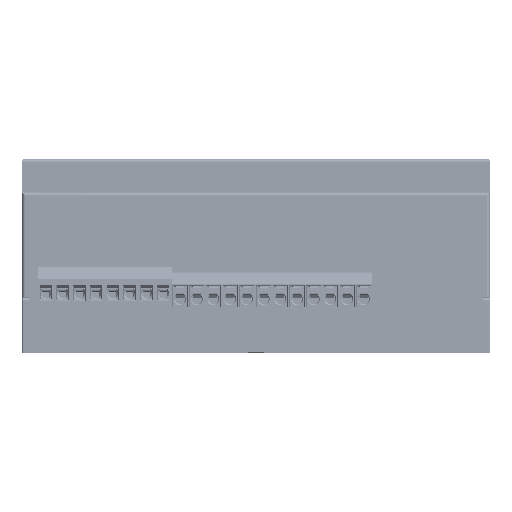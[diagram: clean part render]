
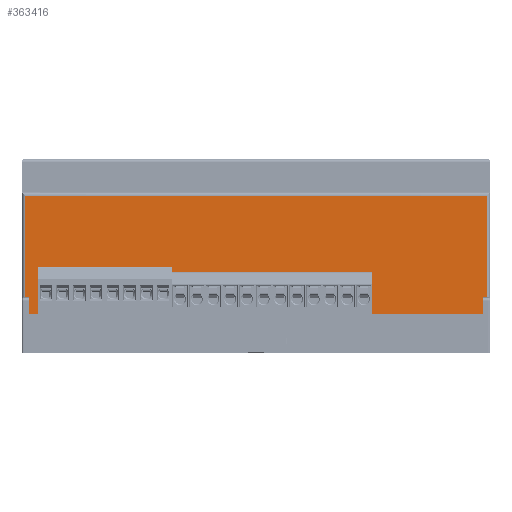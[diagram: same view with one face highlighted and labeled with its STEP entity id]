
A CAD part, top view. The second image highlights one B-rep face of the part: STEP entity #363416.
In plain terms, the highlighted planar face has unit normal (0, 0, 1).
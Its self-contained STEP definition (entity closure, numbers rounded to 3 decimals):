
#7122 = EDGE_CURVE ( 'NONE', #124457, #214389, #364484, .T. ) ;
#11371 = DIRECTION ( 'NONE',  ( -1., 0., 0. ) ) ;
#11579 = LINE ( 'NONE', #367376, #285143 ) ;
#12403 = VERTEX_POINT ( 'NONE', #381553 ) ;
#14831 = CARTESIAN_POINT ( 'NONE',  ( 138.5, -5., 0. ) ) ;
#26384 = VECTOR ( 'NONE', #456057, 1000. ) ;
#35715 = VERTEX_POINT ( 'NONE', #360260 ) ;
#36619 = EDGE_LOOP ( 'NONE', ( #102941, #256335, #307984, #424205, #102605, #330470, #200357, #390276, #161956, #371878, #297698, #402749 ) ) ;
#49387 = EDGE_CURVE ( 'NONE', #183861, #127064, #169331, .T. ) ;
#56931 = EDGE_CURVE ( 'NONE', #401893, #175825, #11579, .T. ) ;
#67278 = EDGE_CURVE ( 'NONE', #407028, #401893, #290034, .T. ) ;
#69397 = EDGE_CURVE ( 'NONE', #12403, #127064, #181453, .T. ) ;
#79814 = VECTOR ( 'NONE', #318010, 1000. ) ;
#83165 = VECTOR ( 'NONE', #419432, 1000. ) ;
#89965 = DIRECTION ( 'NONE',  ( 0.707, -0.707, 0. ) ) ;
#102540 = EDGE_CURVE ( 'NONE', #183861, #35715, #388511, .T. ) ;
#102605 = ORIENTED_EDGE ( 'NONE', *, *, #69397, .F. ) ;
#102941 = ORIENTED_EDGE ( 'NONE', *, *, #7122, .T. ) ;
#104400 = CARTESIAN_POINT ( 'NONE',  ( 1., 31.5, 0. ) ) ;
#110464 = CARTESIAN_POINT ( 'NONE',  ( 1.5, -6.5, 0. ) ) ;
#118302 = DIRECTION ( 'NONE',  ( 0., 0., -1. ) ) ;
#119139 = CARTESIAN_POINT ( 'NONE',  ( 138.5, -6.5, 0. ) ) ;
#124457 = VERTEX_POINT ( 'NONE', #247380 ) ;
#126428 = CARTESIAN_POINT ( 'NONE',  ( 1., -9., 0. ) ) ;
#127064 = VERTEX_POINT ( 'NONE', #215868 ) ;
#131931 = DIRECTION ( 'NONE',  ( 0., -1., 0. ) ) ;
#135921 = VERTEX_POINT ( 'NONE', #227067 ) ;
#147912 = CARTESIAN_POINT ( 'NONE',  ( 1.5, -9., 0. ) ) ;
#156608 = VECTOR ( 'NONE', #221295, 1000. ) ;
#158278 = DIRECTION ( 'NONE',  ( 0., -1., 0. ) ) ;
#161956 = ORIENTED_EDGE ( 'NONE', *, *, #67278, .T. ) ;
#167247 = CARTESIAN_POINT ( 'NONE',  ( 139., 30.5, 0. ) ) ;
#169331 = LINE ( 'NONE', #110464, #348027 ) ;
#169883 = CARTESIAN_POINT ( 'NONE',  ( 0., 30.5, 0. ) ) ;
#170603 = CARTESIAN_POINT ( 'NONE',  ( 1.5, -5., 0. ) ) ;
#175825 = VERTEX_POINT ( 'NONE', #220907 ) ;
#181453 = LINE ( 'NONE', #189260, #443740 ) ;
#183861 = VERTEX_POINT ( 'NONE', #442163 ) ;
#189260 = CARTESIAN_POINT ( 'NONE',  ( 1.5, -5., 0. ) ) ;
#192935 = LINE ( 'NONE', #409563, #276634 ) ;
#194661 = DIRECTION ( 'NONE',  ( -1., 0., 0. ) ) ;
#200357 = ORIENTED_EDGE ( 'NONE', *, *, #348414, .F. ) ;
#207239 = DIRECTION ( 'NONE',  ( 0., 1., 0. ) ) ;
#209914 = VECTOR ( 'NONE', #131931, 1000. ) ;
#214389 = VERTEX_POINT ( 'NONE', #126428 ) ;
#215868 = CARTESIAN_POINT ( 'NONE',  ( 3., -5., 0. ) ) ;
#216195 = LINE ( 'NONE', #170603, #26384 ) ;
#216725 = EDGE_CURVE ( 'NONE', #135921, #12403, #231177, .T. ) ;
#220907 = CARTESIAN_POINT ( 'NONE',  ( 139., -9., 0. ) ) ;
#221295 = DIRECTION ( 'NONE',  ( 1., 0., 0. ) ) ;
#227067 = CARTESIAN_POINT ( 'NONE',  ( 95., -5., 0. ) ) ;
#231177 = LINE ( 'NONE', #266303, #314825 ) ;
#245168 = EDGE_CURVE ( 'NONE', #303728, #124457, #367839, .T. ) ;
#247380 = CARTESIAN_POINT ( 'NONE',  ( 1., 30.5, 0. ) ) ;
#251560 = LINE ( 'NONE', #147912, #156608 ) ;
#256335 = ORIENTED_EDGE ( 'NONE', *, *, #359185, .T. ) ;
#266303 = CARTESIAN_POINT ( 'NONE',  ( 1.5, -5., 0. ) ) ;
#274585 = CARTESIAN_POINT ( 'NONE',  ( 138.5, -9., 0. ) ) ;
#276634 = VECTOR ( 'NONE', #89965, 1000. ) ;
#285143 = VECTOR ( 'NONE', #403176, 1000. ) ;
#290034 = LINE ( 'NONE', #14831, #396105 ) ;
#296162 = CARTESIAN_POINT ( 'NONE',  ( 0., 31.5, 0. ) ) ;
#297698 = ORIENTED_EDGE ( 'NONE', *, *, #380327, .T. ) ;
#303728 = VERTEX_POINT ( 'NONE', #167247 ) ;
#307984 = ORIENTED_EDGE ( 'NONE', *, *, #102540, .F. ) ;
#309741 = CARTESIAN_POINT ( 'NONE',  ( 1.5, -5., 0. ) ) ;
#314825 = VECTOR ( 'NONE', #194661, 1000. ) ;
#316453 = LINE ( 'NONE', #456676, #400179 ) ;
#318010 = DIRECTION ( 'NONE',  ( 0., -1., 0. ) ) ;
#330470 = ORIENTED_EDGE ( 'NONE', *, *, #216725, .F. ) ;
#330567 = EDGE_CURVE ( 'NONE', #342699, #407028, #192935, .T. ) ;
#331951 = PLANE ( 'NONE',  #462060 ) ;
#342699 = VERTEX_POINT ( 'NONE', #384586 ) ;
#348027 = VECTOR ( 'NONE', #358476, 1000. ) ;
#348414 = EDGE_CURVE ( 'NONE', #342699, #135921, #216195, .T. ) ;
#358476 = DIRECTION ( 'NONE',  ( 0.707, 0.707, 0. ) ) ;
#359185 = EDGE_CURVE ( 'NONE', #214389, #35715, #251560, .T. ) ;
#360260 = CARTESIAN_POINT ( 'NONE',  ( 1.5, -9., 0. ) ) ;
#363416 = ADVANCED_FACE ( 'NONE', ( #434776 ), #331951, .F. ) ;
#364484 = LINE ( 'NONE', #104400, #79814 ) ;
#367376 = CARTESIAN_POINT ( 'NONE',  ( 140., -9., 0. ) ) ;
#367839 = LINE ( 'NONE', #169883, #83165 ) ;
#367987 = DIRECTION ( 'NONE',  ( -1., 0., 0. ) ) ;
#371878 = ORIENTED_EDGE ( 'NONE', *, *, #56931, .T. ) ;
#380327 = EDGE_CURVE ( 'NONE', #175825, #303728, #316453, .T. ) ;
#381553 = CARTESIAN_POINT ( 'NONE',  ( 45., -5., 0. ) ) ;
#384586 = CARTESIAN_POINT ( 'NONE',  ( 137., -5., 0. ) ) ;
#388511 = LINE ( 'NONE', #309741, #209914 ) ;
#390276 = ORIENTED_EDGE ( 'NONE', *, *, #330567, .T. ) ;
#396105 = VECTOR ( 'NONE', #158278, 1000. ) ;
#400179 = VECTOR ( 'NONE', #207239, 1000. ) ;
#401893 = VERTEX_POINT ( 'NONE', #274585 ) ;
#402749 = ORIENTED_EDGE ( 'NONE', *, *, #245168, .T. ) ;
#403176 = DIRECTION ( 'NONE',  ( 1., 0., 0. ) ) ;
#407028 = VERTEX_POINT ( 'NONE', #119139 ) ;
#409563 = CARTESIAN_POINT ( 'NONE',  ( 137., -5., 0. ) ) ;
#419432 = DIRECTION ( 'NONE',  ( -1., 0., 0. ) ) ;
#424205 = ORIENTED_EDGE ( 'NONE', *, *, #49387, .T. ) ;
#434776 = FACE_OUTER_BOUND ( 'NONE', #36619, .T. ) ;
#442163 = CARTESIAN_POINT ( 'NONE',  ( 1.5, -6.5, 0. ) ) ;
#443740 = VECTOR ( 'NONE', #11371, 1000. ) ;
#456057 = DIRECTION ( 'NONE',  ( -1., 0., 0. ) ) ;
#456676 = CARTESIAN_POINT ( 'NONE',  ( 139., 31.5, 0. ) ) ;
#462060 = AXIS2_PLACEMENT_3D ( 'NONE', #296162, #118302, #367987 ) ;
